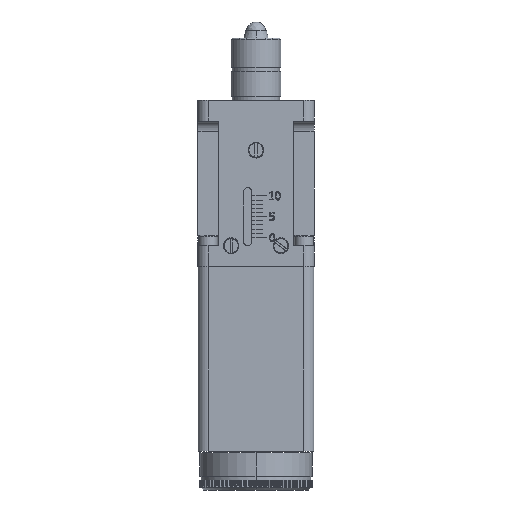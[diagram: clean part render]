
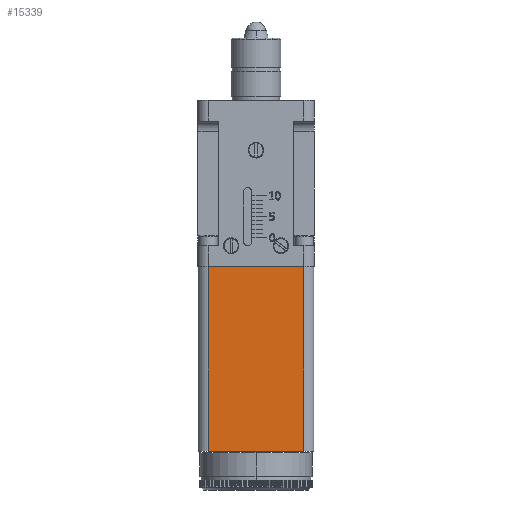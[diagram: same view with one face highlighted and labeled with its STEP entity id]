
A CAD part, left-side view. The second image highlights one B-rep face of the part: STEP entity #15339.
In plain terms, the highlighted planar face has unit normal (-1, 0, 0).
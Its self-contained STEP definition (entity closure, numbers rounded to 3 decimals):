
#15213 = EDGE_LOOP ( 'NONE', ( #15215, #15217, #15222, #15228 ) ) ;
#15215 = ORIENTED_EDGE ( 'NONE', *, *, #15248, .T. ) ;
#15217 = ORIENTED_EDGE ( 'NONE', *, *, #15219, .T. ) ;
#15219 = EDGE_CURVE ( 'NONE', #15246, #15220, #23676, .T. ) ;
#15220 = VERTEX_POINT ( 'NONE', #23670 ) ;
#15222 = ORIENTED_EDGE ( 'NONE', *, *, #15224, .F. ) ;
#15224 = EDGE_CURVE ( 'NONE', #15226, #15220, #23664, .T. ) ;
#15226 = VERTEX_POINT ( 'NONE', #23659 ) ;
#15228 = ORIENTED_EDGE ( 'NONE', *, *, #15229, .F. ) ;
#15229 = EDGE_CURVE ( 'NONE', #15249, #15226, #23654, .T. ) ;
#15246 = VERTEX_POINT ( 'NONE', #23743 ) ;
#15248 = EDGE_CURVE ( 'NONE', #15249, #15246, #23738, .T. ) ;
#15249 = VERTEX_POINT ( 'NONE', #23731 ) ;
#15339 = ADVANCED_FACE ( 'NONE', ( #23969 ), #23964, .T. ) ;
#23649 = DIRECTION ( 'NONE',  ( 0., -1., 0. ) ) ;
#23650 = VECTOR ( 'NONE', #23649, 1000. ) ;
#23652 = CARTESIAN_POINT ( 'NONE',  ( 0.05, 14., 3.855 ) ) ;
#23654 = LINE ( 'NONE', #23652, #23650 ) ;
#23659 = CARTESIAN_POINT ( 'NONE',  ( 0.05, 2.55, 3.855 ) ) ;
#23660 = DIRECTION ( 'NONE',  ( 0., 0., -1. ) ) ;
#23662 = VECTOR ( 'NONE', #23660, 1000. ) ;
#23663 = CARTESIAN_POINT ( 'NONE',  ( 0.05, 2.55, -40.645 ) ) ;
#23664 = LINE ( 'NONE', #23663, #23662 ) ;
#23670 = CARTESIAN_POINT ( 'NONE',  ( 0.05, 2.55, -40.645 ) ) ;
#23672 = DIRECTION ( 'NONE',  ( 0., -1., 0. ) ) ;
#23673 = VECTOR ( 'NONE', #23672, 1000. ) ;
#23674 = CARTESIAN_POINT ( 'NONE',  ( 0.05, 14., -40.645 ) ) ;
#23676 = LINE ( 'NONE', #23674, #23673 ) ;
#23731 = CARTESIAN_POINT ( 'NONE',  ( 0.05, 25.45, 3.855 ) ) ;
#23733 = DIRECTION ( 'NONE',  ( 0., 0., -1. ) ) ;
#23735 = VECTOR ( 'NONE', #23733, 1000. ) ;
#23736 = CARTESIAN_POINT ( 'NONE',  ( 0.05, 25.45, -40.645 ) ) ;
#23738 = LINE ( 'NONE', #23736, #23735 ) ;
#23743 = CARTESIAN_POINT ( 'NONE',  ( 0.05, 25.45, -40.645 ) ) ;
#23957 = DIRECTION ( 'NONE',  ( 0., -1., 0. ) ) ;
#23959 = DIRECTION ( 'NONE',  ( -1., 0., 0. ) ) ;
#23961 = CARTESIAN_POINT ( 'NONE',  ( 0.05, 0.05, -40.645 ) ) ;
#23963 = AXIS2_PLACEMENT_3D ( 'NONE', #23961, #23959, #23957 ) ;
#23964 = PLANE ( 'NONE',  #23963 ) ;
#23969 = FACE_OUTER_BOUND ( 'NONE', #15213, .T. ) ;
